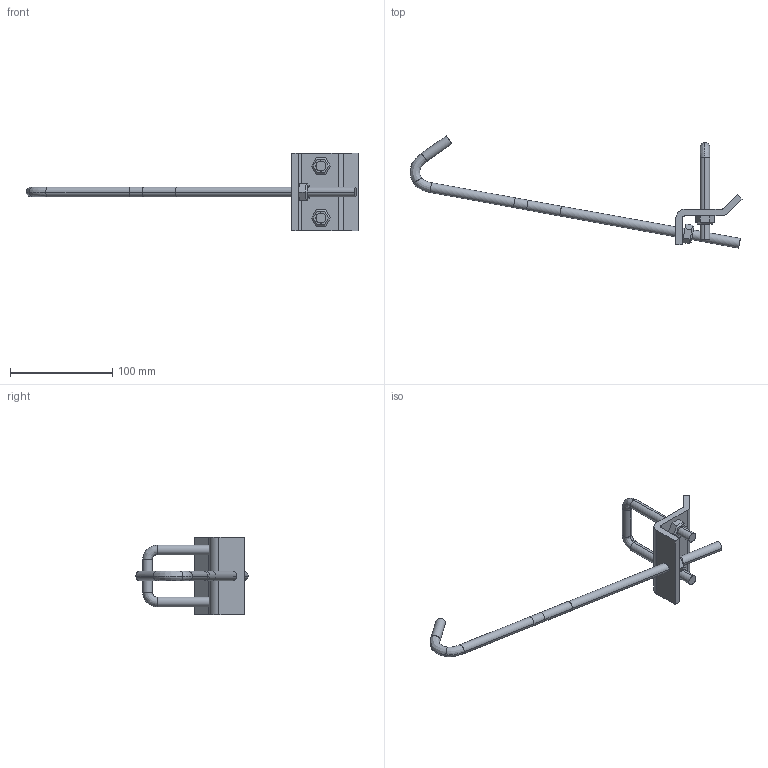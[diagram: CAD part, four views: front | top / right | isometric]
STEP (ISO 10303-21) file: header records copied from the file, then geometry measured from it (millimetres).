
FILE_DESCRIPTION(('TurboCAD Mac Pro'),'Build 980');
FILE_NAME('P2867-12.stp',' ',(''),(''),'ACIS Interop','IMSI','TurboCAD Mac Pro BY IMSI, INCORPORATED');
FILE_SCHEMA(('automotive_design'));
Length unit declared in the file: inch
Products named in the file (6): 1; 2; 3; 4; 5; 6
Bounding box: 324.58 x 109.65 x 76.2 mm (x, y, z)
Volume: 91454.7 mm3; surface area: 37729 mm2
Topology: 6 solids, 6 shells, 100 faces, 226 edges, 138 vertices
Faces by surface type: plane 56, bspline 24, cylinder 20
Entity records: 5660 total; most frequent: CARTESIAN_POINT 1602, ORIENTED_EDGE 452, DIRECTION 382, STYLED_ITEM 308, PRESENTATION_STYLE_ASSIGNMENT 308, COLOUR_RGB 308, EDGE_CURVE 226, CURVE_STYLE 202
